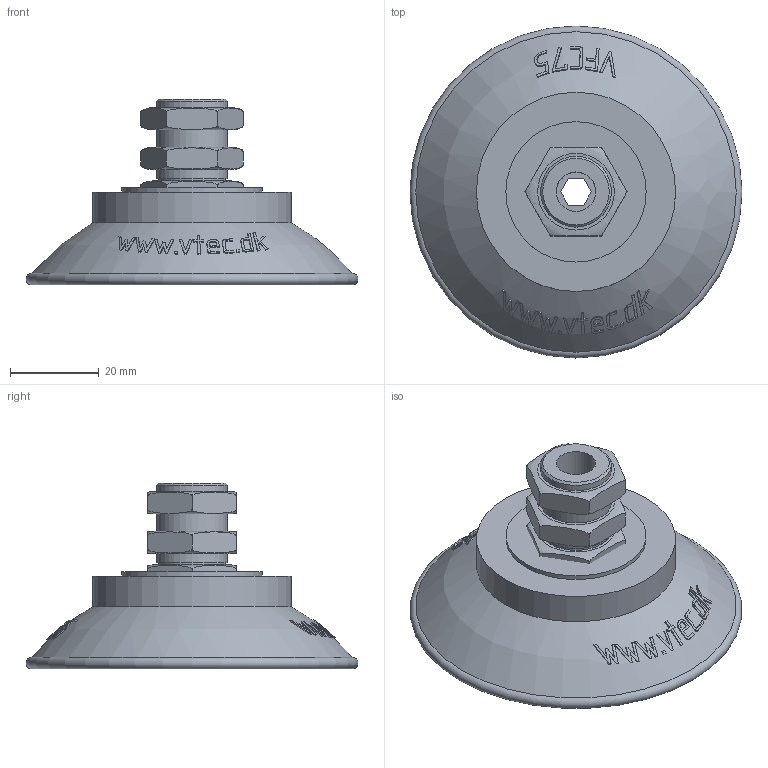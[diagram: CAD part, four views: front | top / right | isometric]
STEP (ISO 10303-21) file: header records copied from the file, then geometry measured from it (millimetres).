
FILE_DESCRIPTION( ( 'STEP AP203' ), '1' );
FILE_NAME( 'C:/Documents and Settings/Owner/官帕 拳搁/3D/Vacuum Pad/VFC series/VFC75X2-M16M.stp', '2006-04-25T05:10:03', ( ' ' ), ( ' ' ), 'XStep 1.0', ' ', ' ' );
FILE_SCHEMA( ( 'CONFIG_CONTROL_DESIGN) ( )' ) );
Length unit declared in the file: metre
Products named in the file (3): Assem1; 1; 2
Bounding box: 74.99 x 74.99 x 42 mm (x, y, z)
Volume: 57922.7 mm3; surface area: 33608.8 mm2
Topology: 5 solids, 5 shells, 535 faces, 1321 edges, 874 vertices
Faces by surface type: bspline 272, plane 122, sphere 76, cylinder 49, cone 8, revolution 6, torus 2
Full cylindrical faces by diameter (mm): 8.9 x2, 15 x5, 16 x2, 31.7 x2, 45 x2
Entity records: 13794 total; most frequent: CARTESIAN_POINT 8459, ORIENTED_EDGE 1258, DIRECTION 666, EDGE_CURVE 629, VERTEX_POINT 426, B_SPLINE_CURVE_WITH_KNOTS 331, EDGE_LOOP 319, FACE_OUTER_BOUND 272
